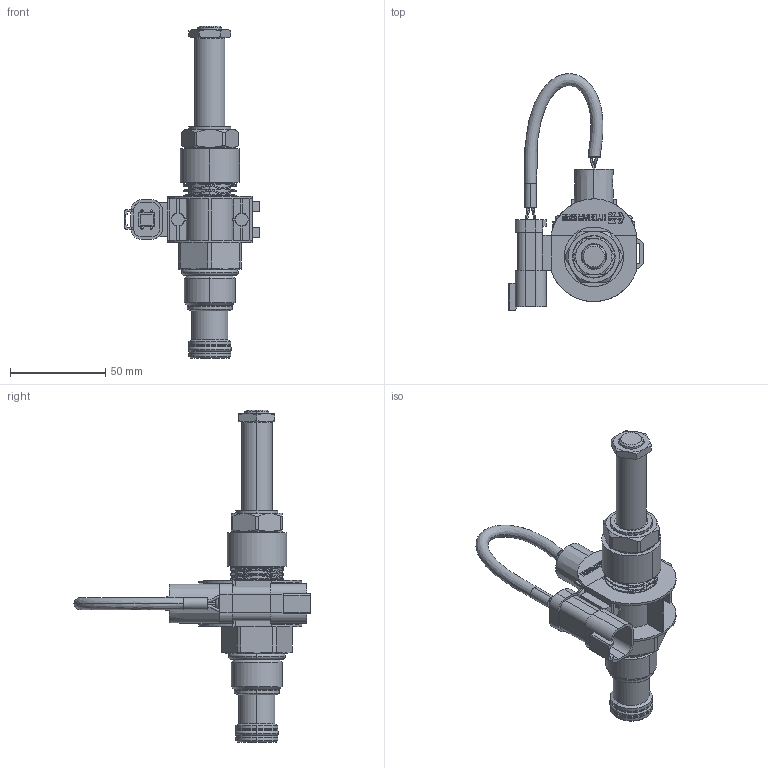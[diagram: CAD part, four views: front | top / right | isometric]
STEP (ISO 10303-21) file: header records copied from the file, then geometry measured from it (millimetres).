
FILE_DESCRIPTION((''),'2;1');
FILE_NAME('ASM0003_ASM','2021-06-23T15:38:00',('AB7'),(''),'CREO PARAMETRIC BY PTC INC, 2018020','CREO PARAMETRIC BY PTC INC, 2018020','');
FILE_SCHEMA(('CONFIG_CONTROL_DESIGN'));
Products named in the file (4): HSV12-P22A-0-X-00-00; PRT0007; PRT0008; ASM0003_ASM
Assembly tree (3 placements, depth 2):
  ASM0003_ASM
    HSV12-P22A-0-X-00-00
    PRT0007
    PRT0008
Bounding box: 70.76 x 124.52 x 174.7 mm (x, y, z)
Volume: 114075.7 mm3; surface area: 46872.1 mm2
Topology: 3 solids, 3 shells, 891 faces, 2496 edges, 1611 vertices
Faces by surface type: plane 404, cylinder 243, cone 74, bspline 66, extrusion 64, torus 32, sphere 8
Entity records: 39351 total; most frequent: CARTESIAN_POINT 17538, ORIENTED_EDGE 4968, DIRECTION 3779, EDGE_CURVE 2484, VERTEX_POINT 1611, VECTOR 1383, LINE 1319, AXIS2_PLACEMENT_3D 1198
